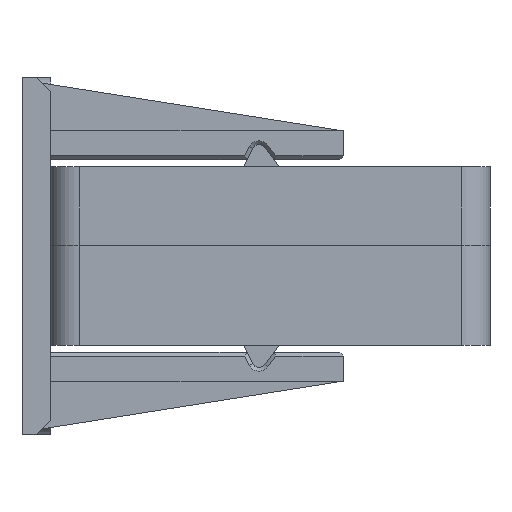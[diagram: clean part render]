
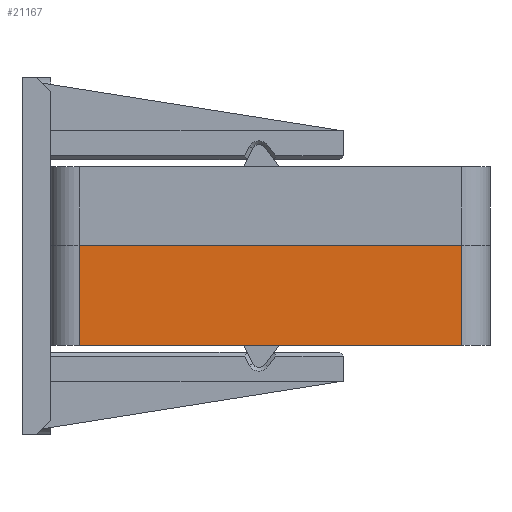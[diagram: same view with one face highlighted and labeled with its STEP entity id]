
A CAD part, left-side view. The second image highlights one B-rep face of the part: STEP entity #21167.
In plain terms, the highlighted planar face has unit normal (-1, 0, 0).
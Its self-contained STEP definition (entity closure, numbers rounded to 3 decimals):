
#480=FACE_OUTER_BOUND('',#1612,.T.);
#1612=EDGE_LOOP('',(#14646,#14647,#14648,#14649));
#3114=LINE('',#29145,#6058);
#3442=LINE('',#29805,#6386);
#3452=LINE('',#29828,#6396);
#3453=LINE('',#29831,#6397);
#6058=VECTOR('',#23788,10.);
#6386=VECTOR('',#24124,10.);
#6396=VECTOR('',#24146,10.);
#6397=VECTOR('',#24151,10.);
#8982=VERTEX_POINT('',#29142);
#8983=VERTEX_POINT('',#29144);
#9311=VERTEX_POINT('',#29803);
#9318=VERTEX_POINT('',#29827);
#11076=EDGE_CURVE('',#8982,#8983,#3114,.T.);
#11407=EDGE_CURVE('',#8982,#9311,#3442,.T.);
#11419=EDGE_CURVE('',#8983,#9318,#3452,.T.);
#11421=EDGE_CURVE('',#9318,#9311,#3453,.T.);
#14646=ORIENTED_EDGE('',*,*,#11076,.F.);
#14647=ORIENTED_EDGE('',*,*,#11407,.T.);
#14648=ORIENTED_EDGE('',*,*,#11421,.F.);
#14649=ORIENTED_EDGE('',*,*,#11419,.F.);
#20136=PLANE('',#22321);
#21167=ADVANCED_FACE('',(#480),#20136,.T.);
#22321=AXIS2_PLACEMENT_3D('',#29830,#24149,#24150);
#23788=DIRECTION('',(0.,1.,0.));
#24124=DIRECTION('',(0.,0.,1.));
#24146=DIRECTION('',(0.,0.,1.));
#24149=DIRECTION('center_axis',(-1.,0.,0.));
#24150=DIRECTION('ref_axis',(0.,-1.,0.));
#24151=DIRECTION('',(0.,-1.,0.));
#29142=CARTESIAN_POINT('',(-52.5,-26.75,-5.));
#29144=CARTESIAN_POINT('',(-52.5,26.75,-5.));
#29145=CARTESIAN_POINT('',(-52.5,-26.75,-5.));
#29803=CARTESIAN_POINT('',(-52.5,-26.75,9.));
#29805=CARTESIAN_POINT('',(-52.5,-26.75,-5.));
#29827=CARTESIAN_POINT('',(-52.5,26.75,9.));
#29828=CARTESIAN_POINT('',(-52.5,26.75,-5.));
#29830=CARTESIAN_POINT('Origin',(-52.5,26.75,-5.));
#29831=CARTESIAN_POINT('',(-52.5,-26.75,9.));
